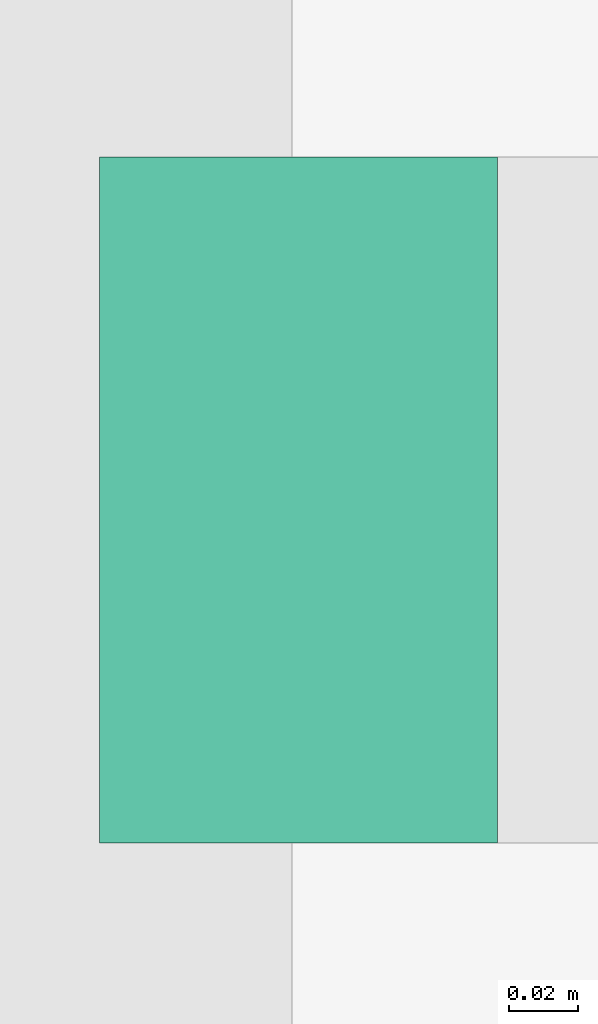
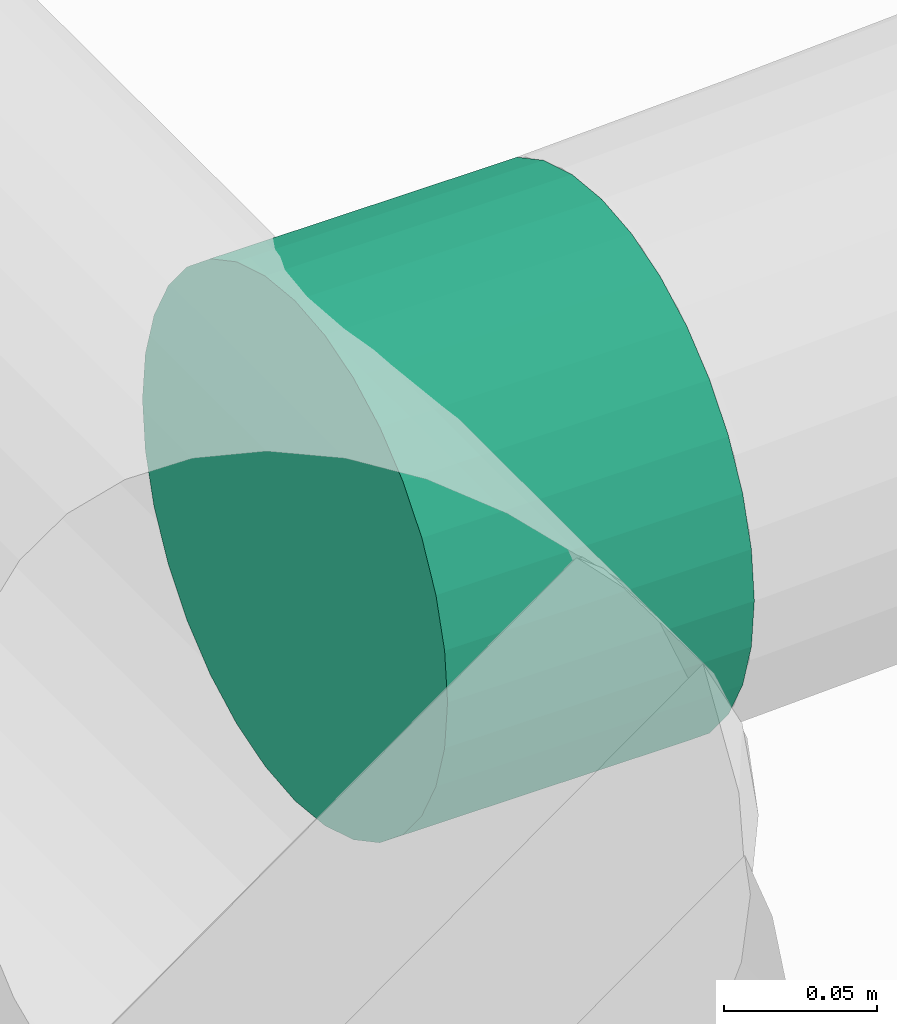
# One storey, part 9 of 31: 1 flow fitting.
"""IFC2X3 building model written with IfcOpenShell, lengths in millimetres."""

from ifc_helpers import new_model, entity, si_unit, converted_unit, derived_unit, direction, frame, frame_2d, origin, place, context, subcontext, project, spatial, circle, extrude, source, transform, mapped, material, material_list, type_object, type_shapes, element, save


model = new_model("IFC2X3")

# Units and contexts
model_context = context("Model", 3, precision=0.01, world=origin(), true_north=direction((6.123031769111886e-17, 1.0)))
body_context = subcontext(model_context, "Body", "Model", "MODEL_VIEW")
ifc_project = project(units=[si_unit("LENGTHUNIT", "METRE", prefix="MILLI"), si_unit("AREAUNIT", "SQUARE_METRE"), si_unit("VOLUMEUNIT", "CUBIC_METRE"), converted_unit("PLANEANGLEUNIT", "DEGREE", entity("IfcRatioMeasure", 0.017453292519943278), si_unit("PLANEANGLEUNIT", "RADIAN"), dimensions=[0, 0, 0, 0, 0, 0, 0]), si_unit("MASSUNIT", "GRAM", prefix="KILO"), derived_unit("MASSDENSITYUNIT", [(si_unit("MASSUNIT", "GRAM", prefix="KILO"), 1), (si_unit("LENGTHUNIT", "METRE"), -3)]), derived_unit("MOMENTOFINERTIAUNIT", [(si_unit("LENGTHUNIT", "METRE"), 4)]), si_unit("TIMEUNIT", "SECOND"), si_unit("FREQUENCYUNIT", "HERTZ"), si_unit("THERMODYNAMICTEMPERATUREUNIT", "DEGREE_CELSIUS"), derived_unit("THERMALTRANSMITTANCEUNIT", [(si_unit("MASSUNIT", "GRAM", prefix="KILO"), 1), (si_unit("THERMODYNAMICTEMPERATUREUNIT", "KELVIN"), -1), (si_unit("TIMEUNIT", "SECOND"), -3)]), derived_unit("VOLUMETRICFLOWRATEUNIT", [(si_unit("LENGTHUNIT", "METRE"), 3), (si_unit("TIMEUNIT", "SECOND"), -1)]), derived_unit("MASSFLOWRATEUNIT", [(si_unit("MASSUNIT", "GRAM", prefix="KILO"), 1), (si_unit("TIMEUNIT", "SECOND"), -1)]), derived_unit("ROTATIONALFREQUENCYUNIT", [(si_unit("TIMEUNIT", "SECOND"), -1)]), si_unit("ELECTRICCURRENTUNIT", "AMPERE"), si_unit("ELECTRICVOLTAGEUNIT", "VOLT"), si_unit("POWERUNIT", "WATT"), si_unit("FORCEUNIT", "NEWTON", prefix="KILO"), si_unit("ILLUMINANCEUNIT", "LUX"), si_unit("LUMINOUSFLUXUNIT", "LUMEN"), si_unit("LUMINOUSINTENSITYUNIT", "CANDELA"), derived_unit("USERDEFINED", [(si_unit("MASSUNIT", "GRAM", prefix="KILO"), -1), (si_unit("LENGTHUNIT", "METRE"), -2), (si_unit("TIMEUNIT", "SECOND"), 3), (si_unit("LUMINOUSFLUXUNIT", "LUMEN"), 1)]), derived_unit("SOUNDPOWERUNIT", [(si_unit("MASSUNIT", "GRAM", prefix="KILO"), 1), (si_unit("LENGTHUNIT", "METRE"), 2), (si_unit("TIMEUNIT", "SECOND"), -3)]), derived_unit("SOUNDPRESSUREUNIT", [(si_unit("MASSUNIT", "GRAM", prefix="KILO"), 1), (si_unit("LENGTHUNIT", "METRE"), -1), (si_unit("TIMEUNIT", "SECOND"), -2)]), derived_unit("LINEARVELOCITYUNIT", [(si_unit("LENGTHUNIT", "METRE"), 1), (si_unit("TIMEUNIT", "SECOND"), -1)]), si_unit("PRESSUREUNIT", "PASCAL"), derived_unit("USERDEFINED", [(si_unit("LENGTHUNIT", "METRE"), -2), (si_unit("MASSUNIT", "GRAM", prefix="KILO"), 1), (si_unit("TIMEUNIT", "SECOND"), -2)]), derived_unit("LINEARFORCEUNIT", [(si_unit("MASSUNIT", "GRAM", prefix="KILO"), 1), (si_unit("LENGTHUNIT", "METRE"), 1), (si_unit("TIMEUNIT", "SECOND"), -2), (si_unit("LENGTHUNIT", "METRE"), -1)]), derived_unit("PLANARFORCEUNIT", [(si_unit("MASSUNIT", "GRAM", prefix="KILO"), 1), (si_unit("LENGTHUNIT", "METRE"), 1), (si_unit("TIMEUNIT", "SECOND"), -2), (si_unit("LENGTHUNIT", "METRE"), -2)])], contexts=[model_context])

# Site, building, storey
site_placement = place(None, origin())
site = spatial("IfcSite", under=ifc_project, at=site_placement, Name="Default", CompositionType="ELEMENT")
building_placement = place(site_placement, origin())
building = spatial("IfcBuilding", under=site, at=building_placement, CompositionType="ELEMENT")
storey_placement = place(building_placement, frame((0.0, 0.0, 3880.0)))
storey = spatial("IfcBuildingStorey", under=building, at=storey_placement, Name="Niveau 1", CompositionType="ELEMENT", Elevation=3880.0)

# Flow fitting
ifc_material = material(Name="<Unnamed>")
ifc_material_list_1 = material_list([ifc_material, ifc_material, ifc_material])
ifc_material_list_2 = material_list([ifc_material, ifc_material, ifc_material])
duct_fitting_type = type_object("IfcDuctFittingType", Name="Piquage Aldes:Standard", PredefinedType="NOTDEFINED", material=ifc_material_list_2)
shared_shape = source(origin(), body_context, "Body", "SweptSolid", [
    extrude(circle(Radius=99.99999999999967, at=frame_2d((-2.057646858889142e-13, -7.948734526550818e-14), x_axis=(1.0, 0.0))), frame((10.0, 0.0, 0.0), z_axis=(1.0, 0.0, 0.0), x_axis=(0.0, -1.0, 0.0)), (0.0, 0.0, 1.0), 50.00000000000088),
    extrude(circle(Radius=99.99999999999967, at=frame_2d((-2.057646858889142e-13, -7.948734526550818e-14), x_axis=(1.0, 0.0))), frame((0.0, 0.0, 0.0), z_axis=(1.0, 0.0, 0.0), x_axis=(0.0, -1.0, 0.0)), (0.0, 0.0, 1.0), 10.000000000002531),
    extrude(circle(Radius=99.99999999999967, at=frame_2d((-2.0798317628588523e-13, -7.894535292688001e-14), x_axis=(1.0, 0.0))), frame((-56.09600000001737, 0.0, 0.0), z_axis=(1.0, 0.0, 0.0), x_axis=(0.0, -1.0, 0.0)), (0.0, 0.0, 1.0), 56.09600000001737),
])
type_shapes(duct_fitting_type, [shared_shape])
flow_fitting_placement = place(storey_placement, frame((-2070.0, -22666.926483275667, 3150.0), z_axis=(0.0, 0.0, -1.0), x_axis=(1.0, 0.0, 0.0)))
element("IfcFlowFitting", 1, at=flow_fitting_placement, inside=storey, type_object=duct_fitting_type, material=ifc_material_list_1, Name="Piquage Aldes:Standard", ObjectType="Piquage Aldes:Standard", context=body_context, shape_type="MappedRepresentation", body=[
    mapped(shared_shape, transform((0.0, 0.0, 0.0), scale=1.0)),
])

save(model, "model.ifc")
